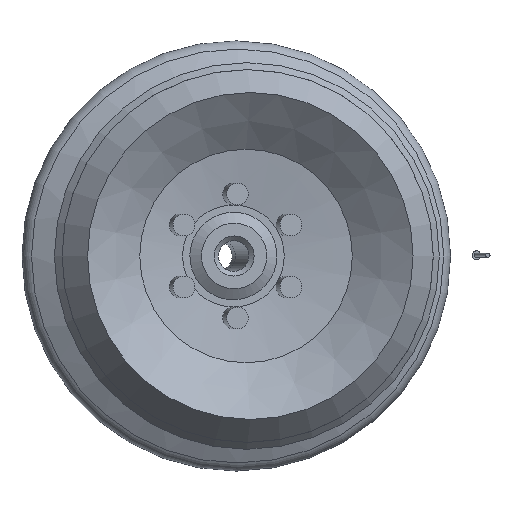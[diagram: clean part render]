
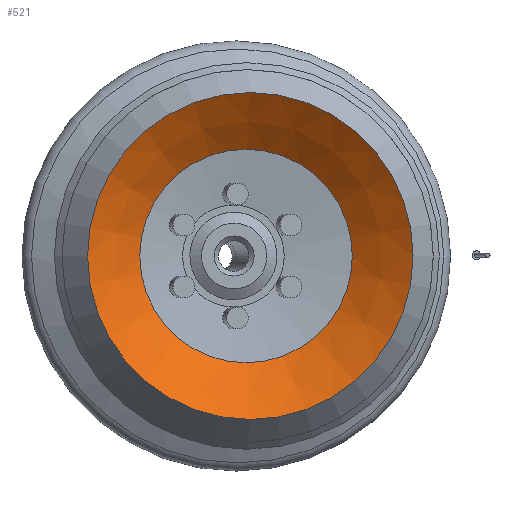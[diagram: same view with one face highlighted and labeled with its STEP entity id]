
A CAD part, front view. The second image highlights one B-rep face of the part: STEP entity #521.
In plain terms, the highlighted conical face has half-angle 51.03 degrees and reference radius 14.637 mm.
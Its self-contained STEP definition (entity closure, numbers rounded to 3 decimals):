
#521=ADVANCED_FACE('',(#839,#840),#841,.F.);
#839=FACE_OUTER_BOUND('',#1121,.T.);
#840=FACE_BOUND('',#1122,.T.);
#841=CONICAL_SURFACE('',#1123,14.637,0.891);
#1121=EDGE_LOOP('',(#1591));
#1122=EDGE_LOOP('',(#1592));
#1123=AXIS2_PLACEMENT_3D('',#1593,#1594,#1595);
#1591=ORIENTED_EDGE('',*,*,#1776,.T.);
#1592=ORIENTED_EDGE('',*,*,#1777,.F.);
#1593=CARTESIAN_POINT('',(0.,-31.598,0.));
#1594=DIRECTION('',(0.,-1.0,0.));
#1595=DIRECTION('',(0.0,0.,-1.0));
#1776=EDGE_CURVE('',#2015,#2015,#2016,.T.);
#1777=EDGE_CURVE('',#2017,#2017,#2018,.T.);
#2015=VERTEX_POINT('',#2684);
#2016=CIRCLE('',#2685,22.412);
#2017=VERTEX_POINT('',#2686);
#2018=CIRCLE('',#2687,14.637);
#2684=CARTESIAN_POINT('',(0.,-37.887,-22.412));
#2685=AXIS2_PLACEMENT_3D('',#2871,#2872,#2873);
#2686=CARTESIAN_POINT('',(0.,-31.598,-14.637));
#2687=AXIS2_PLACEMENT_3D('',#2874,#2875,#2876);
#2871=CARTESIAN_POINT('',(0.,-37.887,0.));
#2872=DIRECTION('',(0.,-1.0,0.));
#2873=DIRECTION('',(0.0,0.,-1.0));
#2874=CARTESIAN_POINT('',(0.,-31.598,0.));
#2875=DIRECTION('',(0.,-1.0,0.));
#2876=DIRECTION('',(0.0,0.,-1.0));
